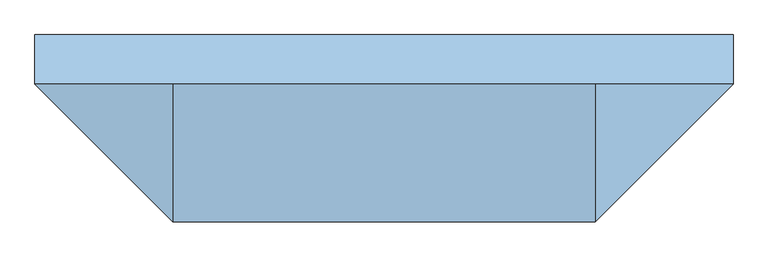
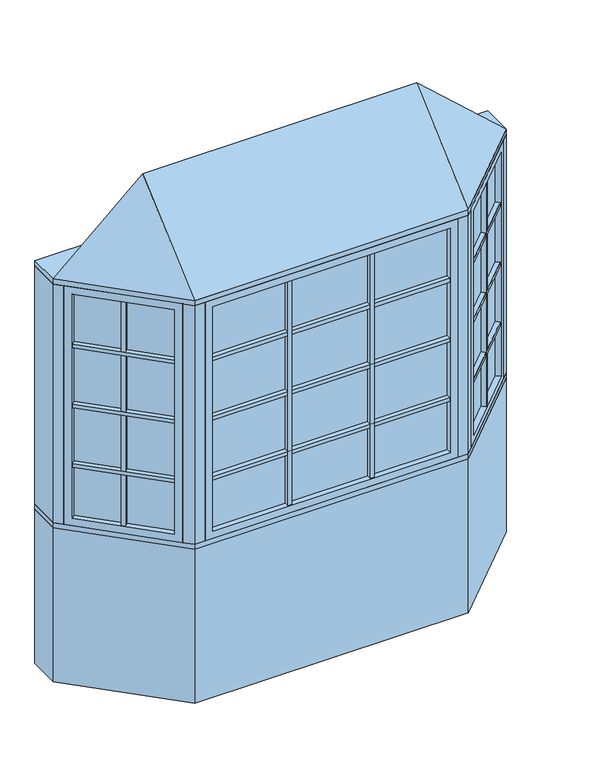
"""IFC4 building model written with IfcOpenShell, lengths in millimetres: window geometry, Pollard_Windows_Tudor Casement Bows and Bays : AML-BAY 45 AFR0612-10-500_GC."""

from ifc_helpers import new_model, si_unit, frame, origin, origin_with_axes, place, context, project, spatial, polyline, outline, extrude, faceted_brep, source, transform, mapped, element, save


def window_ae849061(model_context):
    return source(origin(), model_context, "Body", "SolidModel", [
        extrude(outline(polyline([(709.3614193, -437.1108753), (693.8050701, -421.5545261), (1001.616171, -113.7434252), (1017.1725202, -129.2997743), (709.3614193, -437.1108753)])), frame((0.0, 0.0, 1390.998), z_axis=(0.0, 0.0, 1.0), x_axis=(1.0, 0.0, 0.0)), (0.0, 0.0, 1.0), 18.0),
        extrude(outline(polyline([(690.2129677, -417.9624236), (674.6566185, -402.4060744), (982.4677194, -94.5949735), (998.0240686, -110.1513227), (690.2129677, -417.9624236)])), frame((0.0, 0.0, 1390.998), z_axis=(0.0, 0.0, 1.0), x_axis=(1.0, 0.0, 0.0)), (0.0, 0.0, 1.0), 18.0),
        extrude(outline(polyline([(709.3614193, -437.1108753), (693.8050701, -421.5545261), (1001.616171, -113.7434252), (1017.1725202, -129.2997743), (709.3614193, -437.1108753)])), frame((0.0, 0.0, 1090.998), z_axis=(0.0, 0.0, 1.0), x_axis=(1.0, 0.0, 0.0)), (0.0, 0.0, 1.0), 18.0),
        extrude(outline(polyline([(690.2129677, -417.9624236), (674.6566185, -402.4060744), (982.4677194, -94.5949735), (998.0240686, -110.1513227), (690.2129677, -417.9624236)])), frame((0.0, 0.0, 1090.998), z_axis=(0.0, 0.0, 1.0), x_axis=(1.0, 0.0, 0.0)), (0.0, 0.0, 1.0), 18.0),
        extrude(outline(polyline([(709.3614193, -437.1108753), (693.8050701, -421.5545261), (1001.616171, -113.7434252), (1017.1725202, -129.2997743), (709.3614193, -437.1108753)])), frame((0.0, 0.0, 1390.998), z_axis=(0.0, 0.0, 1.0), x_axis=(1.0, 0.0, 0.0)), (0.0, 0.0, 1.0), 18.0),
        extrude(outline(polyline([(690.2129677, -417.9624236), (674.6566185, -402.4060744), (982.4677194, -94.5949735), (998.0240686, -110.1513227), (690.2129677, -417.9624236)])), frame((0.0, 0.0, 1390.998), z_axis=(0.0, 0.0, 1.0), x_axis=(1.0, 0.0, 0.0)), (0.0, 0.0, 1.0), 18.0),
        extrude(outline(polyline([(709.3614193, -437.1108753), (693.8050701, -421.5545261), (1001.616171, -113.7434252), (1017.1725202, -129.2997743), (709.3614193, -437.1108753)])), frame((0.0, 0.0, 1390.998), z_axis=(0.0, 0.0, 1.0), x_axis=(1.0, 0.0, 0.0)), (0.0, 0.0, 1.0), 18.0),
        extrude(outline(polyline([(690.2129677, -417.9624236), (674.6566185, -402.4060744), (982.4677194, -94.5949735), (998.0240686, -110.1513227), (690.2129677, -417.9624236)])), frame((0.0, 0.0, 1390.998), z_axis=(0.0, 0.0, 1.0), x_axis=(1.0, 0.0, 0.0)), (0.0, 0.0, 1.0), 18.0),
        extrude(outline(polyline([(709.3614193, -437.1108753), (693.8050701, -421.5545261), (1001.616171, -113.7434252), (1017.1725202, -129.2997743), (709.3614193, -437.1108753)])), frame((0.0, 0.0, 1690.998), z_axis=(0.0, 0.0, 1.0), x_axis=(1.0, 0.0, 0.0)), (0.0, 0.0, 1.0), 18.0),
        extrude(outline(polyline([(690.2129677, -417.9624236), (674.6566185, -402.4060744), (982.4677194, -94.5949735), (998.0240686, -110.1513227), (690.2129677, -417.9624236)])), frame((0.0, 0.0, 1690.998), z_axis=(0.0, 0.0, 1.0), x_axis=(1.0, 0.0, 0.0)), (0.0, 0.0, 1.0), 18.0),
        extrude(outline(polyline([(854.0745816, -261.2850146), (869.6309308, -276.8413638), (856.9030087, -289.5692858), (841.3466595, -274.0129366), (854.0745816, -261.2850146)])), frame((0.0, 0.0, 835.8628), z_axis=(0.0, 0.0, 1.0), x_axis=(1.0, 0.0, 0.0)), (0.0, 0.0, 1.0), 1128.2704),
        extrude(outline(polyline([(850.4824791, -257.6929121), (837.7545571, -270.4208342), (822.1982079, -254.864485), (834.92613, -242.1365629), (850.4824791, -257.6929121)])), frame((0.0, 0.0, 835.8628), z_axis=(0.0, 0.0, 1.0), x_axis=(1.0, 0.0, 0.0)), (0.0, 0.0, 1.0), 1128.2704),
        extrude(outline(polyline([(1010.5964271, -104.763169), (684.824814, -430.5347822), (681.2327115, -426.9426797), (1007.0043247, -101.1710666), (1010.5964271, -104.763169)])), frame((0.0, 0.0, 823.1628), z_axis=(0.0, 0.0, 1.0), x_axis=(1.0, 0.0, 0.0)), (0.0, 0.0, 1.0), 1153.6704),
        faceted_brep([(1001.616171, -113.7434252, 835.8628), (1019.5766833, -131.7039374, 835.8628), (1019.5766833, -131.7039374, 1964.1332), (1001.616171, -113.7434252, 1964.1332), (1007.0043247, -101.1710666, 823.1628), (1010.5964271, -104.763169, 823.1628), (1010.5964271, -104.763169, 1976.8332), (1007.0043247, -101.1710666, 1976.8332), (980.0635563, -92.1908105, 835.8628), (998.0240686, -110.1513227, 835.8628), (998.0240686, -110.1513227, 1964.1332), (980.0635563, -92.1908105, 1964.1332), (1044.9369265, -106.3436941, 799.998), (1005.4237996, -66.8305672, 799.998), (1005.4237996, -66.8305672, 1999.998), (1044.9369265, -106.3436941, 1999.998), (711.7655823, -439.5150383, 1964.1332), (693.8050701, -421.5545261, 1964.1332), (684.824814, -430.5347822, 1976.8332), (681.2327115, -426.9426797, 1976.8332), (690.2129677, -417.9624236, 1964.1332), (672.2524554, -400.0019114, 1964.1332), (646.8922121, -425.3621547, 1999.998), (686.4053391, -464.8752816, 1999.998), (711.7655823, -439.5150383, 835.8628), (693.8050701, -421.5545261, 835.8628), (684.824814, -430.5347822, 823.1628), (681.2327115, -426.9426797, 823.1628), (690.2129677, -417.9624236, 835.8628), (672.2524554, -400.0019114, 835.8628), (646.8922121, -425.3621547, 799.998), (686.4053391, -464.8752816, 799.998)], [[[0, 1, 2, 3]], [[4, 5, 6, 7]], [[8, 9, 10, 11]], [[12, 13, 14, 15]], [[3, 2, 16, 17]], [[7, 6, 18, 19]], [[11, 10, 20, 21]], [[15, 14, 22, 23]], [[17, 16, 24, 25]], [[19, 18, 26, 27]], [[21, 20, 28, 29]], [[23, 22, 30, 31]], [[25, 24, 1, 0]], [[5, 26, 18, 6], [3, 17, 25, 0]], [[27, 26, 5, 4]], [[7, 19, 27, 4], [9, 28, 20, 10]], [[29, 28, 9, 8]], [[13, 30, 22, 14], [11, 21, 29, 8]], [[31, 30, 13, 12]], [[15, 23, 31, 12], [1, 24, 16, 2]]]),
        extrude(outline(polyline([(204.6285333, -474.8306207), (204.6285333, -496.8306207), (186.6285333, -496.8306207), (186.6285333, -474.8306207), (204.6285333, -474.8306207)])), frame((0.0, 0.0, 835.8628), z_axis=(0.0, 0.0, 1.0), x_axis=(1.0, 0.0, 0.0)), (0.0, 0.0, 1.0), 1128.2704),
        extrude(outline(polyline([(204.6285333, -469.7506207), (186.6285333, -469.7506207), (186.6285333, -447.7506207), (204.6285333, -447.7506207), (204.6285333, -469.7506207)])), frame((0.0, 0.0, 835.8628), z_axis=(0.0, 0.0, 1.0), x_axis=(1.0, 0.0, 0.0)), (0.0, 0.0, 1.0), 1128.2704),
        extrude(outline(polyline([(-186.6285333, -474.8306207), (-186.6285333, -496.8306207), (-204.6285333, -496.8306207), (-204.6285333, -474.8306207), (-186.6285333, -474.8306207)])), frame((0.0, 0.0, 835.8628), z_axis=(0.0, 0.0, 1.0), x_axis=(1.0, 0.0, 0.0)), (0.0, 0.0, 1.0), 1128.2704),
        extrude(outline(polyline([(-186.6285333, -469.7506207), (-204.6285333, -469.7506207), (-204.6285333, -447.7506207), (-186.6285333, -447.7506207), (-186.6285333, -469.7506207)])), frame((0.0, 0.0, 835.8628), z_axis=(0.0, 0.0, 1.0), x_axis=(1.0, 0.0, 0.0)), (0.0, 0.0, 1.0), 1128.2704),
        extrude(outline(polyline([(-565.1852, -496.8306207), (-565.1852, -474.8306207), (565.1852, -474.8306207), (565.1852, -496.8306207), (-565.1852, -496.8306207)])), frame((0.0, 0.0, 1090.998), z_axis=(0.0, 0.0, 1.0), x_axis=(1.0, 0.0, 0.0)), (0.0, 0.0, 1.0), 18.0),
        extrude(outline(polyline([(-565.1852, -469.7506207), (-565.1852, -447.7506207), (565.1852, -447.7506207), (565.1852, -469.7506207), (-565.1852, -469.7506207)])), frame((0.0, 0.0, 1090.998), z_axis=(0.0, 0.0, 1.0), x_axis=(1.0, 0.0, 0.0)), (0.0, 0.0, 1.0), 18.0),
        extrude(outline(polyline([(-565.1852, -496.8306207), (-565.1852, -474.8306207), (565.1852, -474.8306207), (565.1852, -496.8306207), (-565.1852, -496.8306207)])), frame((0.0, 0.0, 1390.998), z_axis=(0.0, 0.0, 1.0), x_axis=(1.0, 0.0, 0.0)), (0.0, 0.0, 1.0), 18.0),
        extrude(outline(polyline([(-565.1852, -469.7506207), (-565.1852, -447.7506207), (565.1852, -447.7506207), (565.1852, -469.7506207), (-565.1852, -469.7506207)])), frame((0.0, 0.0, 1390.998), z_axis=(0.0, 0.0, 1.0), x_axis=(1.0, 0.0, 0.0)), (0.0, 0.0, 1.0), 18.0),
        extrude(outline(polyline([(-565.1852, -496.8306207), (-565.1852, -474.8306207), (565.1852, -474.8306207), (565.1852, -496.8306207), (-565.1852, -496.8306207)])), frame((0.0, 0.0, 1390.998), z_axis=(0.0, 0.0, 1.0), x_axis=(1.0, 0.0, 0.0)), (0.0, 0.0, 1.0), 18.0),
        extrude(outline(polyline([(-565.1852, -469.7506207), (-565.1852, -447.7506207), (565.1852, -447.7506207), (565.1852, -469.7506207), (-565.1852, -469.7506207)])), frame((0.0, 0.0, 1390.998), z_axis=(0.0, 0.0, 1.0), x_axis=(1.0, 0.0, 0.0)), (0.0, 0.0, 1.0), 18.0),
        extrude(outline(polyline([(-565.1852, -496.8306207), (-565.1852, -474.8306207), (565.1852, -474.8306207), (565.1852, -496.8306207), (-565.1852, -496.8306207)])), frame((0.0, 0.0, 1390.998), z_axis=(0.0, 0.0, 1.0), x_axis=(1.0, 0.0, 0.0)), (0.0, 0.0, 1.0), 18.0),
        extrude(outline(polyline([(-565.1852, -469.7506207), (-565.1852, -447.7506207), (565.1852, -447.7506207), (565.1852, -469.7506207), (-565.1852, -469.7506207)])), frame((0.0, 0.0, 1390.998), z_axis=(0.0, 0.0, 1.0), x_axis=(1.0, 0.0, 0.0)), (0.0, 0.0, 1.0), 18.0),
        extrude(outline(polyline([(-1017.1725202, -129.2997743), (-1001.616171, -113.7434252), (-693.8050701, -421.5545261), (-709.3614193, -437.1108753), (-1017.1725202, -129.2997743)])), frame((0.0, 0.0, 1090.998), z_axis=(0.0, 0.0, 1.0), x_axis=(1.0, 0.0, 0.0)), (0.0, 0.0, 1.0), 18.0),
        extrude(outline(polyline([(-998.0240686, -110.1513227), (-982.4677194, -94.5949735), (-674.6566185, -402.4060744), (-690.2129677, -417.9624236), (-998.0240686, -110.1513227)])), frame((0.0, 0.0, 1090.998), z_axis=(0.0, 0.0, 1.0), x_axis=(1.0, 0.0, 0.0)), (0.0, 0.0, 1.0), 18.0),
        extrude(outline(polyline([(-1017.1725202, -129.2997743), (-1001.616171, -113.7434252), (-693.8050701, -421.5545261), (-709.3614193, -437.1108753), (-1017.1725202, -129.2997743)])), frame((0.0, 0.0, 1390.998), z_axis=(0.0, 0.0, 1.0), x_axis=(1.0, 0.0, 0.0)), (0.0, 0.0, 1.0), 18.0),
        extrude(outline(polyline([(-998.0240686, -110.1513227), (-982.4677194, -94.5949735), (-674.6566185, -402.4060744), (-690.2129677, -417.9624236), (-998.0240686, -110.1513227)])), frame((0.0, 0.0, 1390.998), z_axis=(0.0, 0.0, 1.0), x_axis=(1.0, 0.0, 0.0)), (0.0, 0.0, 1.0), 18.0),
        extrude(outline(polyline([(-1017.1725202, -129.2997743), (-1001.616171, -113.7434252), (-693.8050701, -421.5545261), (-709.3614193, -437.1108753), (-1017.1725202, -129.2997743)])), frame((0.0, 0.0, 1390.998), z_axis=(0.0, 0.0, 1.0), x_axis=(1.0, 0.0, 0.0)), (0.0, 0.0, 1.0), 18.0),
        extrude(outline(polyline([(-998.0240686, -110.1513227), (-982.4677194, -94.5949735), (-674.6566185, -402.4060744), (-690.2129677, -417.9624236), (-998.0240686, -110.1513227)])), frame((0.0, 0.0, 1390.998), z_axis=(0.0, 0.0, 1.0), x_axis=(1.0, 0.0, 0.0)), (0.0, 0.0, 1.0), 18.0),
        extrude(outline(polyline([(-1017.1725202, -129.2997743), (-1001.616171, -113.7434252), (-693.8050701, -421.5545261), (-709.3614193, -437.1108753), (-1017.1725202, -129.2997743)])), frame((0.0, 0.0, 1390.998), z_axis=(0.0, 0.0, 1.0), x_axis=(1.0, 0.0, 0.0)), (0.0, 0.0, 1.0), 18.0),
        extrude(outline(polyline([(-998.0240686, -110.1513227), (-982.4677194, -94.5949735), (-674.6566185, -402.4060744), (-690.2129677, -417.9624236), (-998.0240686, -110.1513227)])), frame((0.0, 0.0, 1390.998), z_axis=(0.0, 0.0, 1.0), x_axis=(1.0, 0.0, 0.0)), (0.0, 0.0, 1.0), 18.0),
        extrude(outline(polyline([(-1017.1725202, -129.2997743), (-1001.616171, -113.7434252), (-693.8050701, -421.5545261), (-709.3614193, -437.1108753), (-1017.1725202, -129.2997743)])), frame((0.0, 0.0, 1690.998), z_axis=(0.0, 0.0, 1.0), x_axis=(1.0, 0.0, 0.0)), (0.0, 0.0, 1.0), 18.0),
        extrude(outline(polyline([(-998.0240686, -110.1513227), (-982.4677194, -94.5949735), (-674.6566185, -402.4060744), (-690.2129677, -417.9624236), (-998.0240686, -110.1513227)])), frame((0.0, 0.0, 1690.998), z_axis=(0.0, 0.0, 1.0), x_axis=(1.0, 0.0, 0.0)), (0.0, 0.0, 1.0), 18.0),
        extrude(outline(polyline([(-565.1852, -496.8306207), (-565.1852, -474.8306207), (565.1852, -474.8306207), (565.1852, -496.8306207), (-565.1852, -496.8306207)])), frame((0.0, 0.0, 1690.998), z_axis=(0.0, 0.0, 1.0), x_axis=(1.0, 0.0, 0.0)), (0.0, 0.0, 1.0), 18.0),
        extrude(outline(polyline([(-565.1852, -469.7506207), (-565.1852, -447.7506207), (565.1852, -447.7506207), (565.1852, -469.7506207), (-565.1852, -469.7506207)])), frame((0.0, 0.0, 1690.998), z_axis=(0.0, 0.0, 1.0), x_axis=(1.0, 0.0, 0.0)), (0.0, 0.0, 1.0), 18.0),
        extrude(outline(polyline([(-841.3466595, -274.0129366), (-856.9030087, -289.5692858), (-869.6309308, -276.8413638), (-854.0745816, -261.2850146), (-841.3466595, -274.0129366)])), frame((0.0, 0.0, 835.8628), z_axis=(0.0, 0.0, 1.0), x_axis=(1.0, 0.0, 0.0)), (0.0, 0.0, 1.0), 1128.2704),
        extrude(outline(polyline([(-837.7545571, -270.4208342), (-850.4824791, -257.6929121), (-834.92613, -242.1365629), (-822.1982079, -254.864485), (-837.7545571, -270.4208342)])), frame((0.0, 0.0, 835.8628), z_axis=(0.0, 0.0, 1.0), x_axis=(1.0, 0.0, 0.0)), (0.0, 0.0, 1.0), 1128.2704),
        extrude(outline(polyline([(-684.824814, -430.5347822), (-1010.5964271, -104.763169), (-1007.0043247, -101.1710666), (-681.2327115, -426.9426797), (-684.824814, -430.5347822)])), frame((0.0, 0.0, 823.1628), z_axis=(0.0, 0.0, 1.0), x_axis=(1.0, 0.0, 0.0)), (0.0, 0.0, 1.0), 1153.6704),
        faceted_brep([(-690.2129677, -417.9624236, 1964.1332), (-672.2524554, -400.0019114, 1964.1332), (-672.2524554, -400.0019114, 835.8628), (-690.2129677, -417.9624236, 835.8628), (-684.824814, -430.5347822, 1976.8332), (-681.2327115, -426.9426797, 1976.8332), (-681.2327115, -426.9426797, 823.1628), (-684.824814, -430.5347822, 823.1628), (-711.7655823, -439.5150383, 1964.1332), (-693.8050701, -421.5545261, 1964.1332), (-693.8050701, -421.5545261, 835.8628), (-711.7655823, -439.5150383, 835.8628), (-646.8922121, -425.3621547, 1999.998), (-686.4053391, -464.8752816, 1999.998), (-686.4053391, -464.8752816, 799.998), (-646.8922121, -425.3621547, 799.998), (-980.0635563, -92.1908105, 835.8628), (-998.0240686, -110.1513227, 835.8628), (-1007.0043247, -101.1710666, 823.1628), (-1010.5964271, -104.763169, 823.1628), (-1001.616171, -113.7434252, 835.8628), (-1019.5766833, -131.7039374, 835.8628), (-1044.9369265, -106.3436941, 799.998), (-1005.4237996, -66.8305672, 799.998), (-980.0635563, -92.1908105, 1964.1332), (-998.0240686, -110.1513227, 1964.1332), (-1007.0043247, -101.1710666, 1976.8332), (-1010.5964271, -104.763169, 1976.8332), (-1001.616171, -113.7434252, 1964.1332), (-1019.5766833, -131.7039374, 1964.1332), (-1044.9369265, -106.3436941, 1999.998), (-1005.4237996, -66.8305672, 1999.998)], [[[0, 1, 2, 3]], [[4, 5, 6, 7]], [[8, 9, 10, 11]], [[12, 13, 14, 15]], [[3, 2, 16, 17]], [[7, 6, 18, 19]], [[11, 10, 20, 21]], [[15, 14, 22, 23]], [[17, 16, 24, 25]], [[19, 18, 26, 27]], [[21, 20, 28, 29]], [[23, 22, 30, 31]], [[15, 23, 31, 12], [1, 24, 16, 2]], [[25, 24, 1, 0]], [[5, 26, 18, 6], [3, 17, 25, 0]], [[27, 26, 5, 4]], [[7, 19, 27, 4], [9, 28, 20, 10]], [[29, 28, 9, 8]], [[13, 30, 22, 14], [11, 21, 29, 8]], [[31, 30, 13, 12]]]),
        extrude(outline(polyline([(577.8852, -474.8306207), (-577.8852, -474.8306207), (-577.8852, -469.7506207), (577.8852, -469.7506207), (577.8852, -474.8306207)])), frame((0.0, 0.0, 823.1628), z_axis=(0.0, 0.0, 1.0), x_axis=(1.0, 0.0, 0.0)), (0.0, 0.0, 1.0), 1153.6704),
        faceted_brep([(565.1852, -474.8306207, 835.8628), (565.1852, -500.2306207, 835.8628), (565.1852, -500.2306207, 1964.1332), (565.1852, -474.8306207, 1964.1332), (577.8852, -469.7506207, 823.1628), (577.8852, -474.8306207, 823.1628), (577.8852, -474.8306207, 1976.8332), (577.8852, -469.7506207, 1976.8332), (565.1852, -444.3506207, 835.8628), (565.1852, -469.7506207, 835.8628), (565.1852, -469.7506207, 1964.1332), (565.1852, -444.3506207, 1964.1332), (601.05, -500.2306207, 799.998), (601.05, -444.3506207, 799.998), (601.05, -444.3506207, 1999.998), (601.05, -500.2306207, 1999.998), (-565.1852, -500.2306207, 1964.1332), (-565.1852, -474.8306207, 1964.1332), (-577.8852, -474.8306207, 1976.8332), (-577.8852, -469.7506207, 1976.8332), (-565.1852, -469.7506207, 1964.1332), (-565.1852, -444.3506207, 1964.1332), (-601.05, -444.3506207, 1999.998), (-601.05, -500.2306207, 1999.998), (-565.1852, -500.2306207, 835.8628), (-565.1852, -474.8306207, 835.8628), (-577.8852, -474.8306207, 823.1628), (-577.8852, -469.7506207, 823.1628), (-565.1852, -469.7506207, 835.8628), (-565.1852, -444.3506207, 835.8628), (-601.05, -444.3506207, 799.998), (-601.05, -500.2306207, 799.998)], [[[0, 1, 2, 3]], [[4, 5, 6, 7]], [[8, 9, 10, 11]], [[12, 13, 14, 15]], [[3, 2, 16, 17]], [[7, 6, 18, 19]], [[11, 10, 20, 21]], [[15, 14, 22, 23]], [[17, 16, 24, 25]], [[19, 18, 26, 27]], [[21, 20, 28, 29]], [[23, 22, 30, 31]], [[15, 23, 31, 12], [1, 24, 16, 2]], [[25, 24, 1, 0]], [[5, 26, 18, 6], [3, 17, 25, 0]], [[27, 26, 5, 4]], [[7, 19, 27, 4], [9, 28, 20, 10]], [[29, 28, 9, 8]], [[13, 30, 22, 14], [11, 21, 29, 8]], [[31, 30, 13, 12]]]),
        faceted_brep([(1076.5, -74.7806207, 2025.398), (651.05, -500.2306207, 2025.398), (-651.05, -500.2306207, 2025.398), (-1076.5, -74.7806207, 2025.398), (-651.05, -74.7806207, 2406.398), (651.05, -74.7806207, 2406.398)], [[[0, 1, 2, 3]], [[3, 2, 4]], [[2, 1, 5, 4]], [[1, 0, 5]], [[0, 3, 4, 5]]]),
        extrude(outline(polyline([(-1076.5, 77.6193793), (1076.5, 77.6193793), (1076.5, -74.7806207), (651.05, -500.2306207), (-651.05, -500.2306207), (-1076.5, -74.7806207), (-1076.5, 77.6193793)])), frame((0.0, 0.0, 1999.998), z_axis=(0.0, 0.0, 1.0), x_axis=(1.0, 0.0, 0.0)), (0.0, 0.0, 1.0), 25.4),
        extrude(outline(polyline([(-1076.5, -74.7806207), (-1076.5, 77.6193793), (-1013.3738531, 77.6193793), (-1013.3738531, -74.7806207), (-1044.9369265, -106.3436941), (-1076.5, -74.7806207)])), frame((0.0, 0.0, 799.998), z_axis=(0.0, 0.0, 1.0), x_axis=(1.0, 0.0, 0.0)), (0.0, 0.0, 1.0), 1200.0),
        extrude(outline(polyline([(1076.5, 77.6193793), (1076.5, -74.7806207), (1044.9369265, -106.3436941), (1013.3738531, -74.7806207), (1013.3738531, 77.6193793), (1076.5, 77.6193793)])), frame((0.0, 0.0, 799.998), z_axis=(0.0, 0.0, 1.0), x_axis=(1.0, 0.0, 0.0)), (0.0, 0.0, 1.0), 1200.0),
        extrude(outline(polyline([(651.05, -500.2306207), (601.05, -500.2306207), (601.05, -450.2306207), (630.3393219, -450.2306207), (651.05, -429.5199425), (686.4053391, -464.8752816), (651.05, -500.2306207)])), frame((0.0, 0.0, 799.998), z_axis=(0.0, 0.0, 1.0), x_axis=(1.0, 0.0, 0.0)), (0.0, 0.0, 1.0), 1200.0),
        extrude(outline(polyline([(-651.05, -500.2306207), (-686.4053391, -464.8752816), (-651.05, -429.5199425), (-630.3393219, -450.2306207), (-601.05, -450.2306207), (-601.05, -500.2306207), (-651.05, -500.2306207)])), frame((0.0, 0.0, 799.998), z_axis=(0.0, 0.0, 1.0), x_axis=(1.0, 0.0, 0.0)), (0.0, 0.0, 1.0), 1200.0),
        extrude(outline(polyline([(-651.05, -500.2306207), (-1076.5, -74.7806207), (-1076.5, 77.6193793), (-1013.3738531, 77.6193793), (-587.9238531, -347.8306207), (587.9238531, -347.8306207), (1013.3738531, 77.6193793), (1076.5, 77.6193793), (1076.5, -74.7806207), (651.05, -500.2306207), (-651.05, -500.2306207)])), frame((0.0, 0.0, 774.598), z_axis=(0.0, 0.0, 1.0), x_axis=(1.0, 0.0, 0.0)), (0.0, 0.0, 1.0), 25.4),
        extrude(outline(polyline([(-1076.5, -74.7806207), (-1076.5, 77.6193793), (-1013.3738531, 77.6193793), (-587.9238531, -347.8306207), (587.9238531, -347.8306207), (1013.3738531, 77.6193793), (1076.5, 77.6193793), (1076.5, -74.7806207), (651.05, -500.2306207), (-651.05, -500.2306207), (-1076.5, -74.7806207)])), origin_with_axes(), (0.0, 0.0, 1.0), 774.598),
    ])


if __name__ == "__main__":
    model = new_model("IFC4")
    model_context = context("Model", 3, world=origin())
    ifc_project = project(units=[si_unit("LENGTHUNIT", "METRE", prefix="MILLI")], contexts=[model_context])
    site = spatial("IfcSite", under=ifc_project)
    building = spatial("IfcBuilding", under=site)
    placement = place(None, origin())
    window_shape = window_ae849061(model_context)
    element("IfcWindow", 1, ObjectType="Pollard_Windows_Tudor Casement Bows and Bays : AML-BAY 45 AFR0612-10-500_GC", at=placement, inside=building, context=model_context, shape_type="MappedRepresentation", body=[
        mapped(window_shape, transform((0.0, 0.0, 0.0), x_axis=(1.0, 0.0, 0.0), y_axis=(0.0, 1.0, 0.0), z_axis=(0.0, 0.0, 1.0))),
    ])
    save(model, "model.ifc")
